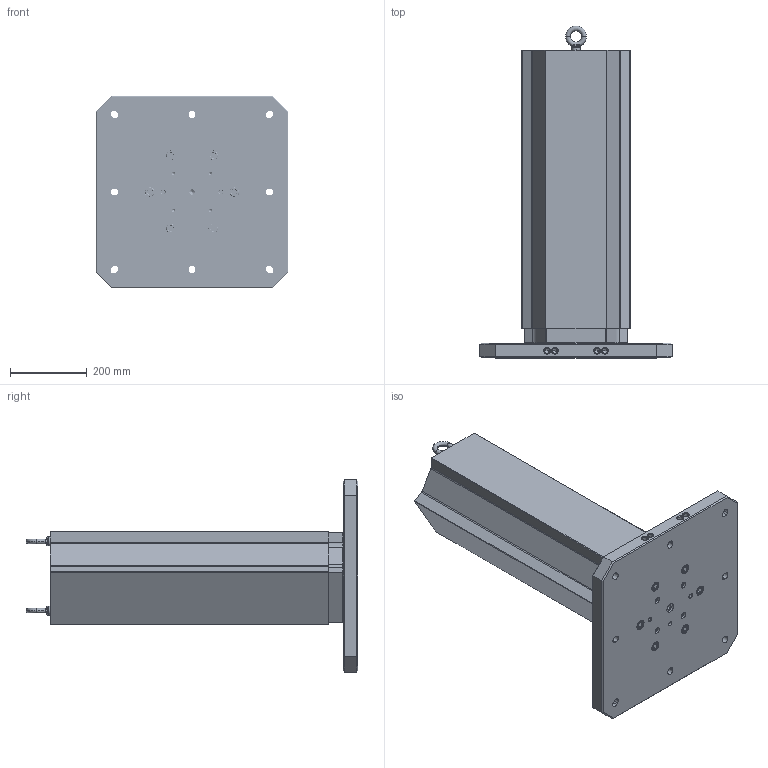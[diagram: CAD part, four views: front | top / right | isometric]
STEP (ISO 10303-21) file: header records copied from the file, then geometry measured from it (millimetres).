
FILE_DESCRIPTION (( 'STEP AP214' ), '1' );
FILE_NAME ('MTA-5003U-800.STEP', '2025-07-30T19:36:43', ( '' ), ( '' ), 'SwSTEP 2.0', 'SolidWorks 2024', '' );
FILE_SCHEMA (( 'AUTOMOTIVE_DESIGN' ));
Length unit declared in the file: millimetre
Products named in the file (8): RL96-14TC; MTA-5003U-800; 156x2.OR  -  O-RING, 156mm ID X 2mm THK, BUNA-N, 70A; HW.76172; RL96-5003BUA; MT-3862A_MACHINABLE TOWER; HW.76452_dev_91290A835; M12X24MM.EB (McM 3040T15)_3040T15
Assembly tree (16 placements, depth 2):
  MTA-5003U-800
    RL96-5003BUA
    MT-3862A_MACHINABLE TOWER
    156x2.OR  -  O-RING, 156mm ID X 2mm THK, BUNA-N, 70A
    RL96-14TC
    HW.76172  x4
    M12X24MM.EB (McM 3040T15)_3040T15  x2
    HW.76452_dev_91290A835  x6
Bounding box: 500 x 862.9 x 500 mm (x, y, z)
Volume: 33278553.3 mm3; surface area: 1806348.1 mm2
Topology: 16 solids, 16 shells, 1843 faces, 4887 edges, 3096 vertices
Faces by surface type: cylinder 1189, plane 298, cone 288, bspline 38, torus 30
Entity records: 33777 total; most frequent: CARTESIAN_POINT 13966, ORIENTED_EDGE 4224, DIRECTION 4028, EDGE_CURVE 2112, AXIS2_PLACEMENT_3D 1513, VERTEX_POINT 1333, LINE 1002, VECTOR 1002
